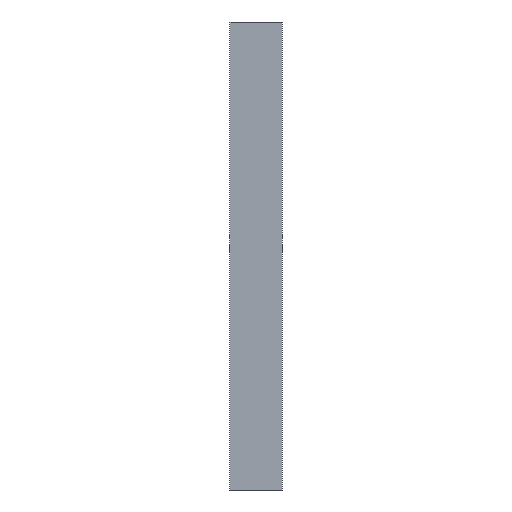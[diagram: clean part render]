
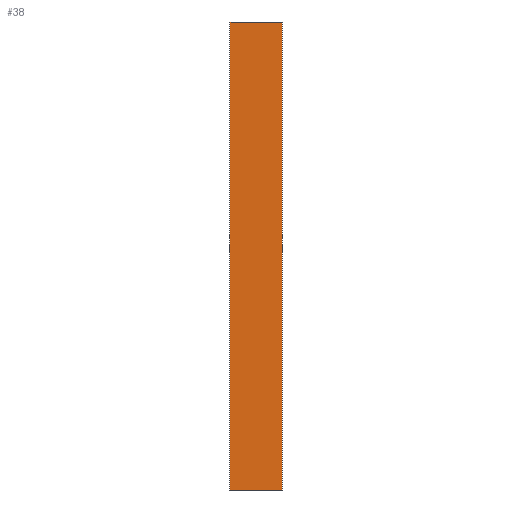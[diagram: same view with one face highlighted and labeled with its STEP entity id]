
A CAD part, left-side view. The second image highlights one B-rep face of the part: STEP entity #38.
In plain terms, the highlighted planar face has unit normal (-1, 0, 0).
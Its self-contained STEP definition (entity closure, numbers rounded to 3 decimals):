
#38=ADVANCED_FACE('',(#50),#354,.T.);
#50=FACE_OUTER_BOUND('',#62,.T.);
#62=EDGE_LOOP('',(#83,#84,#85,#86));
#83=ORIENTED_EDGE('',*,*,#249,.T.);
#84=ORIENTED_EDGE('',*,*,#242,.F.);
#85=ORIENTED_EDGE('',*,*,#250,.T.);
#86=ORIENTED_EDGE('',*,*,#247,.F.);
#122=PCURVE('',#351,#170);
#128=PCURVE('',#353,#176);
#131=PCURVE('',#354,#179);
#132=PCURVE('',#354,#180);
#133=PCURVE('',#354,#181);
#134=PCURVE('',#354,#182);
#135=PCURVE('',#355,#183);
#142=PCURVE('',#356,#190);
#170=DEFINITIONAL_REPRESENTATION('',(#270),#586);
#176=DEFINITIONAL_REPRESENTATION('',(#281),#586);
#179=DEFINITIONAL_REPRESENTATION('',(#286),#586);
#180=DEFINITIONAL_REPRESENTATION('',(#287),#586);
#181=DEFINITIONAL_REPRESENTATION('',(#289),#586);
#182=DEFINITIONAL_REPRESENTATION('',(#290),#586);
#183=DEFINITIONAL_REPRESENTATION('',(#291),#586);
#190=DEFINITIONAL_REPRESENTATION('',(#298),#586);
#218=SURFACE_CURVE('',#269,(#122,#132),.PCURVE_S1.);
#223=SURFACE_CURVE('',#280,(#128,#134),.PCURVE_S1.);
#225=SURFACE_CURVE('',#285,(#131,#135),.PCURVE_S1.);
#226=SURFACE_CURVE('',#288,(#133,#142),.PCURVE_S1.);
#242=EDGE_CURVE('',#338,#335,#218,.T.);
#247=EDGE_CURVE('',#341,#342,#223,.T.);
#249=EDGE_CURVE('',#341,#335,#225,.T.);
#250=EDGE_CURVE('',#338,#342,#226,.T.);
#269=B_SPLINE_CURVE_WITH_KNOTS('',1,(#439,#440),.UNSPECIFIED.,.F.,.F.,(2,
2),(-160.,0.),.UNSPECIFIED.);
#270=B_SPLINE_CURVE_WITH_KNOTS('',1,(#441,#442),.UNSPECIFIED.,.F.,.F.,(2,
2),(-160.,0.),.UNSPECIFIED.);
#280=B_SPLINE_CURVE_WITH_KNOTS('',1,(#461,#462),.UNSPECIFIED.,.F.,.F.,(2,
2),(0.,160.),.UNSPECIFIED.);
#281=B_SPLINE_CURVE_WITH_KNOTS('',1,(#463,#464),.UNSPECIFIED.,.F.,.F.,(2,
2),(0.,160.),.UNSPECIFIED.);
#285=B_SPLINE_CURVE_WITH_KNOTS('',1,(#471,#472),.UNSPECIFIED.,.F.,.F.,(2,
2),(236.,436.),.UNSPECIFIED.);
#286=B_SPLINE_CURVE_WITH_KNOTS('',1,(#473,#474),.UNSPECIFIED.,.F.,.F.,(2,
2),(236.,436.),.UNSPECIFIED.);
#287=B_SPLINE_CURVE_WITH_KNOTS('',1,(#475,#476),.UNSPECIFIED.,.F.,.F.,(2,
2),(-160.,0.),.UNSPECIFIED.);
#288=B_SPLINE_CURVE_WITH_KNOTS('',1,(#477,#478),.UNSPECIFIED.,.F.,.F.,(2,
2),(-436.,-236.),.UNSPECIFIED.);
#289=B_SPLINE_CURVE_WITH_KNOTS('',1,(#479,#480),.UNSPECIFIED.,.F.,.F.,(2,
2),(-436.,-236.),.UNSPECIFIED.);
#290=B_SPLINE_CURVE_WITH_KNOTS('',1,(#481,#482),.UNSPECIFIED.,.F.,.F.,(2,
2),(0.,160.),.UNSPECIFIED.);
#291=B_SPLINE_CURVE_WITH_KNOTS('',1,(#483,#484),.UNSPECIFIED.,.F.,.F.,(2,
2),(236.,436.),.UNSPECIFIED.);
#298=B_SPLINE_CURVE_WITH_KNOTS('',1,(#497,#498),.UNSPECIFIED.,.F.,.F.,(2,
2),(-436.,-236.),.UNSPECIFIED.);
#335=VERTEX_POINT('',#419);
#338=VERTEX_POINT('',#422);
#341=VERTEX_POINT('',#425);
#342=VERTEX_POINT('',#426);
#351=PLANE('',#383);
#353=PLANE('',#385);
#354=PLANE('',#386);
#355=PLANE('',#387);
#356=PLANE('',#388);
#383=AXIS2_PLACEMENT_3D('',#413,#398,$);
#385=AXIS2_PLACEMENT_3D('',#415,#400,$);
#386=AXIS2_PLACEMENT_3D('',#416,#401,$);
#387=AXIS2_PLACEMENT_3D('',#417,#402,$);
#388=AXIS2_PLACEMENT_3D('',#418,#403,$);
#398=DIRECTION('',(0.,-1.,0.));
#400=DIRECTION('',(0.,1.,0.));
#401=DIRECTION('',(-1.,0.,0.));
#402=DIRECTION('',(0.,0.,-1.));
#403=DIRECTION('',(0.,0.,1.));
#413=CARTESIAN_POINT('',(-850.,545.,-180.));
#415=CARTESIAN_POINT('',(-810.,585.,-180.));
#416=CARTESIAN_POINT('',(-850.,585.,-180.));
#417=CARTESIAN_POINT('',(-850.,545.,-180.));
#418=CARTESIAN_POINT('',(-850.,545.,180.));
#419=CARTESIAN_POINT('',(-850.,545.,-180.));
#422=CARTESIAN_POINT('',(-850.,545.,180.));
#425=CARTESIAN_POINT('',(-850.,585.,-180.));
#426=CARTESIAN_POINT('',(-850.,585.,180.));
#439=CARTESIAN_POINT('',(-850.,545.,180.));
#440=CARTESIAN_POINT('',(-850.,545.,-180.));
#441=CARTESIAN_POINT('',(0.,160.));
#442=CARTESIAN_POINT('',(0.,0.));
#461=CARTESIAN_POINT('',(-850.,585.,-180.));
#462=CARTESIAN_POINT('',(-850.,585.,180.));
#463=CARTESIAN_POINT('',(236.,0.));
#464=CARTESIAN_POINT('',(236.,160.));
#471=CARTESIAN_POINT('',(-850.,585.,-180.));
#472=CARTESIAN_POINT('',(-850.,545.,-180.));
#473=CARTESIAN_POINT('',(236.,0.));
#474=CARTESIAN_POINT('',(436.,0.));
#475=CARTESIAN_POINT('',(436.,160.));
#476=CARTESIAN_POINT('',(436.,0.));
#477=CARTESIAN_POINT('',(-850.,545.,180.));
#478=CARTESIAN_POINT('',(-850.,585.,180.));
#479=CARTESIAN_POINT('',(436.,160.));
#480=CARTESIAN_POINT('',(236.,160.));
#481=CARTESIAN_POINT('',(236.,0.));
#482=CARTESIAN_POINT('',(236.,160.));
#483=CARTESIAN_POINT('',(40.,0.));
#484=CARTESIAN_POINT('',(0.,0.));
#497=CARTESIAN_POINT('',(0.,0.));
#498=CARTESIAN_POINT('',(0.,40.));
#586=(
GEOMETRIC_REPRESENTATION_CONTEXT(2)
PARAMETRIC_REPRESENTATION_CONTEXT()
REPRESENTATION_CONTEXT('pspace','')
);
